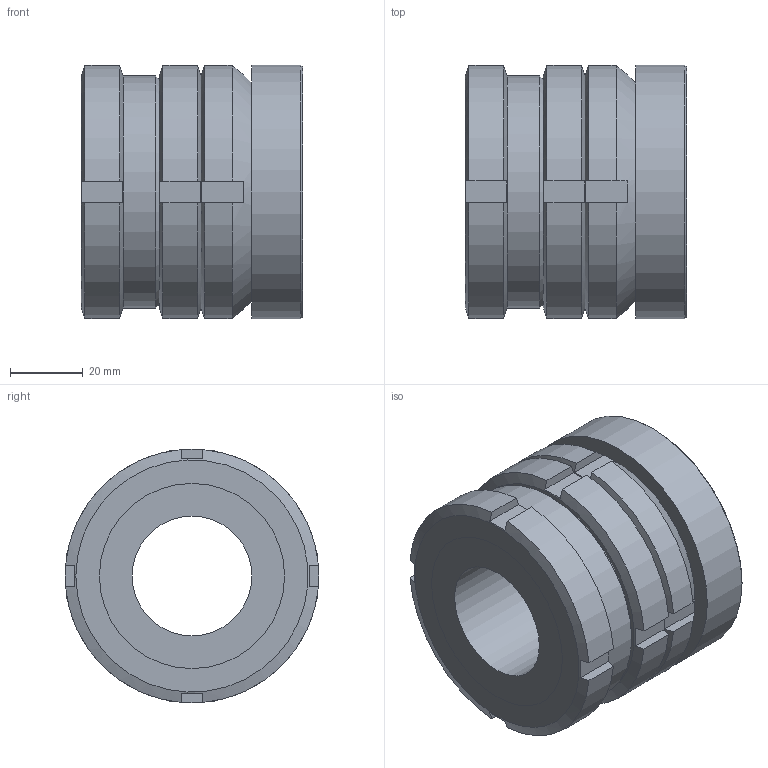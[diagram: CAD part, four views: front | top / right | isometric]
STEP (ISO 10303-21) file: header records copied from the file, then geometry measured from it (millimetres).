
FILE_DESCRIPTION( ( 'STEP AP203' ), '1' );
FILE_NAME( 'C:/Temp/Ganter_Step_05_03_2020/data/3_2/gn350_5/gn350_5_ni/Stainless Steel-Levelling set GN 350.5-70-33-61-NI (0-0).stp', '2020-03-13T05:28:58', ( 'License CC BY-ND 4.0' ), ( 'CADENAS' ), ' ', 'PARTsolutions', ' ' );
FILE_SCHEMA( ( 'CONFIG_CONTROL_DESIGN' ) );
Length unit declared in the file: millimetre
Products named in the file (5): Stainless Steel-Levelling set GN 350.5-70-33-61-NI (0-0); _Levelling set GN 350.5-70-33-61-ST-G; _Levelling set GN 350.5-70-33-61-ST-K; _Levelling set GN 350.5-70-33-61-ST-P(0); _Levelling set GN 350.5-70-33-61-ST-KM
Assembly tree (4 placements, depth 2):
  Stainless Steel-Levelling set GN 350.5-70-33-61-NI (0-0)
    _Levelling set GN 350.5-70-33-61-ST-G
    _Levelling set GN 350.5-70-33-61-ST-K
    _Levelling set GN 350.5-70-33-61-ST-P(0)
    _Levelling set GN 350.5-70-33-61-ST-KM
Bounding box: 61 x 70 x 70 mm (x, y, z)
Volume: 167151 mm3; surface area: 50295.6 mm2
Topology: 4 solids, 4 shells, 85 faces, 211 edges, 140 vertices
Faces by surface type: plane 50, cylinder 24, cone 9, sphere 2
Full cylindrical faces by diameter (mm): 33 x1, 40 x1, 43.529 x1, 44.5 x1, 48.376 x1, 48.917 x1, 49 x1, 50 x1, 51 x2, 64 x1, 70 x1
Entity records: 2696 total; most frequent: CARTESIAN_POINT 698, DIRECTION 368, ORIENTED_EDGE 356, EDGE_CURVE 178, AXIS2_PLACEMENT_3D 160, VERTEX_POINT 130, EDGE_LOOP 122, FACE_OUTER_BOUND 99
